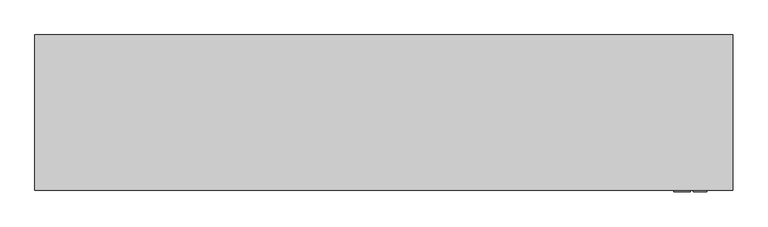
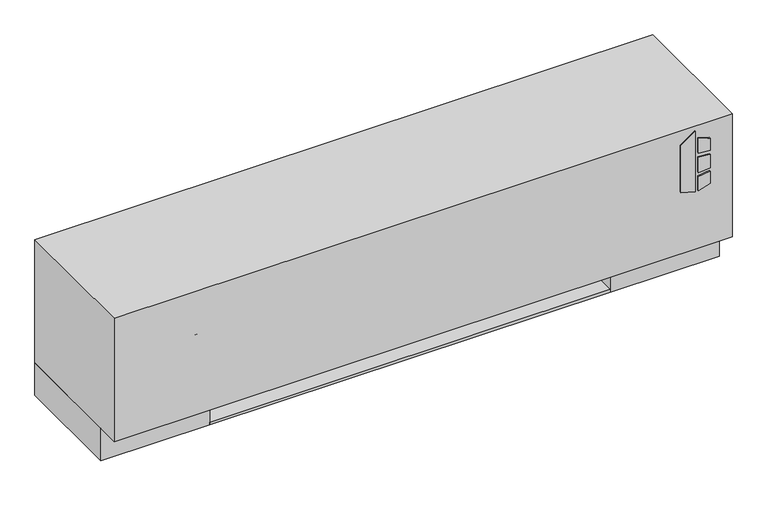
"""IFC4 building model written with IfcOpenShell, lengths in millimetres: proxy geometry, Exposed_Low_Boy_Fan_Coil_Unit Fan_-_LXA_-_IEC_-_2-Pipe_LH_2022 : Size 04 - 277v/60Hz/1Ph - 2/1 Coil."""

from ifc_helpers import new_model, si_unit, point, frame, frame_2d, origin, origin_with_axes, place, context, project, spatial, polyline, circle_curve, trimmed, segment, composite_curve, outline, extrude, faceted_brep, source, transform, mapped, element, save


def mechanical_equipment_9fad054e(model_context):
    return source(origin(), model_context, "Body", "SolidModel", [
        faceted_brep([(393.7, -266.7, 114.3), (215.9, -266.7, 114.3), (215.9, -520.7, 114.3), (393.7, -520.7, 114.3), (219.075, -269.875, 114.3), (390.525, -269.875, 114.3), (390.525, -517.525, 114.3), (219.075, -517.525, 114.3), (393.7, -266.7, 88.9), (393.7, -520.7, 88.9), (215.9, -520.7, 88.9), (215.9, -266.7, 88.9), (390.525, -269.875, 92.0747888), (219.075, -269.875, 92.0747888), (219.075, -517.525, 92.0747888), (390.525, -517.525, 92.0747888)], [[[0, 1, 2, 3], [4, 5, 6, 7]], [[8, 9, 10, 11]], [[1, 0, 8, 11]], [[2, 1, 11, 10]], [[3, 2, 10, 9]], [[0, 3, 9, 8]], [[12, 13, 14, 15]], [[13, 12, 5, 4]], [[14, 13, 4, 7]], [[15, 14, 7, 6]], [[12, 15, 6, 5]]]),
        extrude(outline(composite_curve([segment(trimmed(circle_curve(frame_2d((304.8, -393.7)), 9.525), [point((295.275, -393.7))], [point((314.325, -393.7))], False, "CARTESIAN"), True, "CONTINUOUS"), segment(trimmed(circle_curve(frame_2d((304.8, -393.7)), 9.525), [point((314.325, -393.7))], [point((295.275, -393.7))], False, "CARTESIAN"), True, "CONTINUOUS")], self_intersect=False)), frame((0.0, 0.0, 63.5), z_axis=(0.0, 0.0, 1.0), x_axis=(1.0, 0.0, 0.0)), (0.0, 0.0, 1.0), 25.4),
        extrude(outline(polyline([(222.6730703, 1408.1868862), (212.725, 1440.3602728), (354.8959244, 1440.3602728), (331.8739183, 1408.1868862), (222.6730703, 1408.1868862)])), frame((0.0, -546.1, 0.0), z_axis=(0.0, 1.0, 0.0), x_axis=(0.0, 0.0, 1.0)), (0.0, 0.0, 1.0), 3.175),
        extrude(outline(polyline([(301.6723557, 1447.1186058), (298.4699632, 1473.2), (327.6988042, 1473.2), (335.7632193, 1447.1186058), (301.6723557, 1447.1186058)])), frame((0.0, -546.1, 0.0), z_axis=(0.0, 1.0, 0.0), x_axis=(0.0, 0.0, 1.0)), (0.0, 0.0, 1.0), 3.175),
        extrude(outline(polyline([(249.8088288, 1473.2), (246.1433279, 1447.1186058), (212.725, 1447.1186058), (221.3592372, 1473.2), (249.8088288, 1473.2)])), frame((0.0, -546.1, 0.0), z_axis=(0.0, 1.0, 0.0), x_axis=(0.0, 0.0, 1.0)), (0.0, 0.0, 1.0), 3.175),
        extrude(outline(polyline([(289.1239903, 1473.2), (291.4058166, 1447.1186058), (255.4682681, 1447.1186058), (258.2095331, 1473.2), (289.1239903, 1473.2)])), frame((0.0, -546.1, 0.0), z_axis=(0.0, 1.0, 0.0), x_axis=(0.0, 0.0, 1.0)), (0.0, 0.0, 1.0), 3.175),
        faceted_brep([(1524.0, -238.125, 365.125), (152.4, -238.125, 365.125), (152.4, -542.925, 365.125), (1524.0, -542.925, 365.125), (1524.0, -238.125, 76.2), (1524.0, -542.925, 76.2), (152.4, -542.925, 76.2), (152.4, -238.125, 76.2), (165.1, -238.125, 76.2), (165.1, -517.525, 76.2), (393.7, -517.525, 76.2), (393.7, -238.125, 76.2), (1282.7, -238.125, 76.2), (1282.7, -517.525, 76.2), (1511.3, -517.525, 76.2), (1511.3, -238.125, 76.2), (1511.3, -238.125, 339.725), (1282.7, -238.125, 339.725), (393.7, -238.125, 339.725), (165.1, -238.125, 339.725), (1511.3, -517.525, 339.725), (1282.7, -517.525, 339.725), (393.7, -517.525, 339.725), (165.1, -517.525, 339.725)], [[[0, 1, 2, 3]], [[4, 5, 6, 7, 8, 9, 10, 11, 12, 13, 14, 15]], [[1, 0, 4, 15, 16, 17, 12, 11, 18, 19, 8, 7]], [[2, 1, 7, 6]], [[3, 2, 6, 5]], [[0, 3, 5, 4]], [[16, 20, 21, 17]], [[18, 22, 23, 19]], [[17, 21, 13, 12]], [[21, 20, 14, 13]], [[20, 16, 15, 14]], [[19, 23, 9, 8]], [[23, 22, 10, 9]], [[22, 18, 11, 10]]]),
        extrude(outline(polyline([(1282.7, -492.125), (393.7, -492.125), (393.7, -244.475), (1282.7, -244.475), (1282.7, -492.125)])), origin_with_axes(), (0.0, 0.0, 1.0), 6.35),
        extrude(outline(polyline([(1282.7, -238.125), (1282.7, -244.475), (393.7, -244.475), (393.7, -238.125), (1282.7, -238.125)])), origin_with_axes(), (0.0, 0.0, 1.0), 76.2),
        extrude(outline(polyline([(1524.0, -238.125), (1524.0, -492.125), (1282.7, -492.125), (1282.7, -238.125), (1524.0, -238.125)]), holes=[polyline([(1295.4, -485.775), (1511.3, -485.775), (1511.3, -244.475), (1295.4, -244.475), (1295.4, -485.775)])]), origin_with_axes(), (0.0, 0.0, 1.0), 76.2),
        extrude(outline(polyline([(393.7, -238.125), (393.7, -492.125), (152.4, -492.125), (152.4, -238.125), (393.7, -238.125)]), holes=[polyline([(381.0, -244.475), (165.1, -244.475), (165.1, -485.775), (381.0, -485.775), (381.0, -244.475)])]), origin_with_axes(), (0.0, 0.0, 1.0), 76.2),
        extrude(outline(composite_curve([segment(trimmed(circle_curve(frame_2d((-485.775, 227.0125)), 7.9375), [point((-485.775, 219.075))], [point((-485.775, 234.95))], False, "CARTESIAN"), True, "CONTINUOUS"), segment(trimmed(circle_curve(frame_2d((-485.775, 227.0125)), 7.9375), [point((-485.775, 234.95))], [point((-485.775, 219.075))], False, "CARTESIAN"), True, "CONTINUOUS")], self_intersect=False)), frame((342.9, 0.0, 0.0), z_axis=(1.0, 0.0, 0.0), x_axis=(0.0, 1.0, 0.0)), (0.0, 0.0, 1.0), 50.8),
        extrude(outline(composite_curve([segment(trimmed(circle_curve(frame_2d((-269.875, 273.05)), 7.9375), [point((-269.875, 265.1125))], [point((-269.875, 280.9875))], False, "CARTESIAN"), True, "CONTINUOUS"), segment(trimmed(circle_curve(frame_2d((-269.875, 273.05)), 7.9375), [point((-269.875, 280.9875))], [point((-269.875, 265.1125))], False, "CARTESIAN"), True, "CONTINUOUS")], self_intersect=False)), frame((342.9, 0.0, 0.0), z_axis=(1.0, 0.0, 0.0), x_axis=(0.0, 1.0, 0.0)), (0.0, 0.0, 1.0), 50.8),
    ])


if __name__ == "__main__":
    model = new_model("IFC4")
    model_context = context("Model", 3, world=origin())
    ifc_project = project(units=[si_unit("LENGTHUNIT", "METRE", prefix="MILLI")], contexts=[model_context])
    site = spatial("IfcSite", under=ifc_project)
    building = spatial("IfcBuilding", under=site)
    placement = place(None, origin())
    mechanical_equipment_shape = mechanical_equipment_9fad054e(model_context)
    element("IfcBuildingElementProxy", 1, Name="Exposed_Low_Boy_Fan_Coil_Unit Fan_-_LXA_-_IEC_-_2-Pipe_LH_2022 : Size 04 - 277v/60Hz/1Ph - 2/1 Coil", ObjectType="Exposed_Low_Boy_Fan_Coil_Unit Fan_-_LXA_-_IEC_-_2-Pipe_LH_2022 : Size 04 - 277v/60Hz/1Ph - 2/1 Coil", at=placement, inside=building, context=model_context, shape_type="MappedRepresentation", body=[
        mapped(mechanical_equipment_shape, transform((0.0, 0.0, 0.0), x_axis=(1.0, 0.0, 0.0), y_axis=(0.0, 1.0, 0.0), z_axis=(0.0, 0.0, 1.0))),
    ])
    save(model, "model.ifc")
